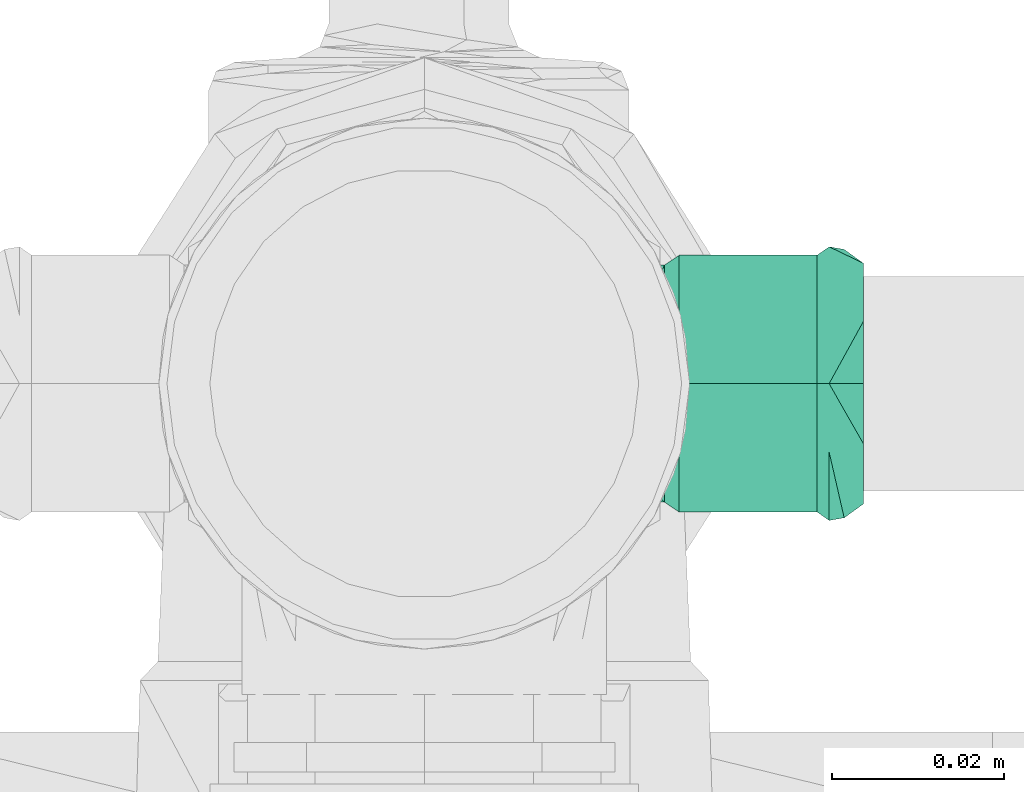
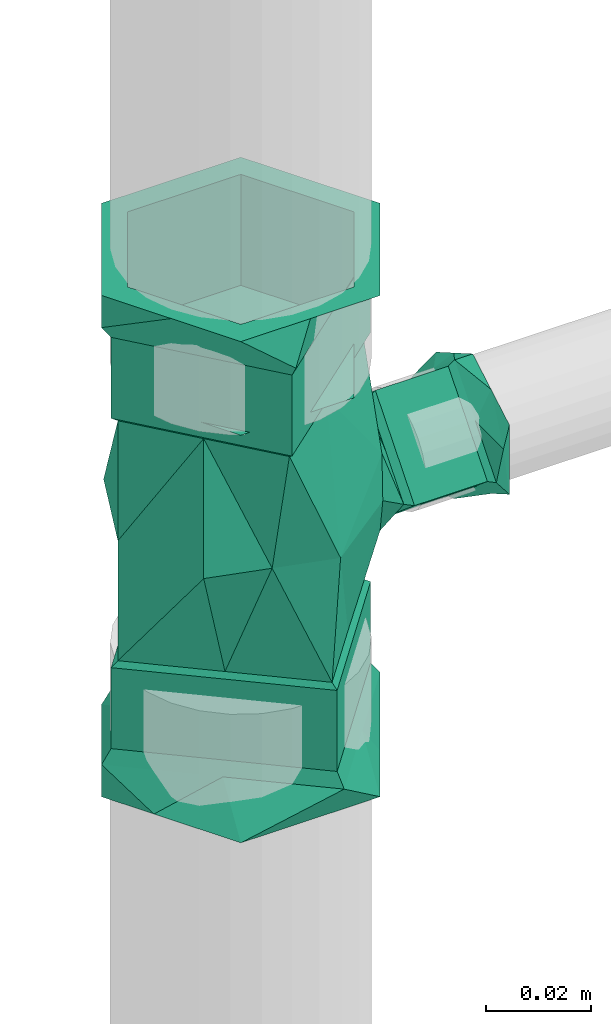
# One storey, part 291 of 589: 1 flow fitting.
"""IFC2X3 building model written with IfcOpenShell, lengths in millimetres."""

from ifc_helpers import new_model, entity, si_unit, converted_unit, derived_unit, direction, frame, origin, place, context, subcontext, project, spatial, faceted_brep, source, transform, mapped, material, type_object, type_shapes, element, save


model = new_model("IFC2X3")

# Units and contexts
model_context = context("Model", 3, precision=0.01, world=origin(), true_north=direction((6.123031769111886e-17, 1.0)))
body_context = subcontext(model_context, "Body", "Model", "MODEL_VIEW")
ifc_project = project(units=[si_unit("LENGTHUNIT", "METRE", prefix="MILLI"), si_unit("AREAUNIT", "SQUARE_METRE"), si_unit("VOLUMEUNIT", "CUBIC_METRE"), converted_unit("PLANEANGLEUNIT", "DEGREE", entity("IfcRatioMeasure", 0.017453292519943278), si_unit("PLANEANGLEUNIT", "RADIAN"), dimensions=[0, 0, 0, 0, 0, 0, 0]), si_unit("MASSUNIT", "GRAM", prefix="KILO"), derived_unit("MASSDENSITYUNIT", [(si_unit("MASSUNIT", "GRAM", prefix="KILO"), 1), (si_unit("LENGTHUNIT", "METRE"), -3)]), derived_unit("IONCONCENTRATIONUNIT", [(si_unit("MASSUNIT", "GRAM", prefix="KILO"), 1), (si_unit("LENGTHUNIT", "METRE"), -3)]), derived_unit("MOMENTOFINERTIAUNIT", [(si_unit("LENGTHUNIT", "METRE"), 4)]), si_unit("TIMEUNIT", "SECOND"), si_unit("FREQUENCYUNIT", "HERTZ"), si_unit("THERMODYNAMICTEMPERATUREUNIT", "DEGREE_CELSIUS"), derived_unit("THERMALTRANSMITTANCEUNIT", [(si_unit("MASSUNIT", "GRAM", prefix="KILO"), 1), (si_unit("THERMODYNAMICTEMPERATUREUNIT", "KELVIN"), -1), (si_unit("TIMEUNIT", "SECOND"), -3)]), derived_unit("THERMALCONDUCTANCEUNIT", [(si_unit("MASSUNIT", "GRAM", prefix="KILO"), 1), (si_unit("THERMODYNAMICTEMPERATUREUNIT", "KELVIN"), -1), (si_unit("TIMEUNIT", "SECOND"), -3), (si_unit("LENGTHUNIT", "METRE"), 1)]), derived_unit("VOLUMETRICFLOWRATEUNIT", [(si_unit("LENGTHUNIT", "METRE"), 3), (si_unit("TIMEUNIT", "SECOND"), -1)]), derived_unit("MASSFLOWRATEUNIT", [(si_unit("MASSUNIT", "GRAM", prefix="KILO"), 1), (si_unit("TIMEUNIT", "SECOND"), -1)]), derived_unit("ROTATIONALFREQUENCYUNIT", [(si_unit("TIMEUNIT", "SECOND"), -1)]), si_unit("ELECTRICCURRENTUNIT", "AMPERE"), si_unit("ELECTRICVOLTAGEUNIT", "VOLT"), si_unit("POWERUNIT", "WATT"), si_unit("FORCEUNIT", "NEWTON", prefix="KILO"), si_unit("ILLUMINANCEUNIT", "LUX"), si_unit("LUMINOUSFLUXUNIT", "LUMEN"), si_unit("LUMINOUSINTENSITYUNIT", "CANDELA"), derived_unit("USERDEFINED", [(si_unit("MASSUNIT", "GRAM", prefix="KILO"), -1), (si_unit("LENGTHUNIT", "METRE"), -2), (si_unit("TIMEUNIT", "SECOND"), 3), (si_unit("LUMINOUSFLUXUNIT", "LUMEN"), 1)]), derived_unit("USERDEFINED", [(si_unit("MASSUNIT", "GRAM", prefix="KILO"), 1), (si_unit("TIMEUNIT", "SECOND"), -3), (si_unit("LENGTHUNIT", "METRE"), 3), (si_unit("ELECTRICCURRENTUNIT", "AMPERE"), -2)]), derived_unit("SOUNDPOWERUNIT", [(si_unit("MASSUNIT", "GRAM", prefix="KILO"), 1), (si_unit("TIMEUNIT", "SECOND"), -3), (si_unit("LENGTHUNIT", "METRE"), 2)]), derived_unit("SOUNDPRESSUREUNIT", [(si_unit("MASSUNIT", "GRAM", prefix="KILO"), 1), (si_unit("LENGTHUNIT", "METRE"), -1), (si_unit("TIMEUNIT", "SECOND"), -2)]), derived_unit("LINEARVELOCITYUNIT", [(si_unit("LENGTHUNIT", "METRE"), 1), (si_unit("TIMEUNIT", "SECOND"), -1)]), si_unit("PRESSUREUNIT", "PASCAL"), derived_unit("USERDEFINED", [(si_unit("MASSUNIT", "GRAM", prefix="KILO"), 1), (si_unit("LENGTHUNIT", "METRE"), -2), (si_unit("TIMEUNIT", "SECOND"), -2)]), derived_unit("LINEARFORCEUNIT", [(si_unit("MASSUNIT", "GRAM", prefix="KILO"), 1), (si_unit("TIMEUNIT", "SECOND"), -2)]), derived_unit("PLANARFORCEUNIT", [(si_unit("MASSUNIT", "GRAM", prefix="KILO"), 1), (si_unit("LENGTHUNIT", "METRE"), -1), (si_unit("TIMEUNIT", "SECOND"), -2)]), derived_unit("SPECIFICHEATCAPACITYUNIT", [(si_unit("THERMODYNAMICTEMPERATUREUNIT", "KELVIN"), -1), (si_unit("LENGTHUNIT", "METRE"), 2), (si_unit("TIMEUNIT", "SECOND"), -2)]), derived_unit("HEATINGVALUEUNIT", [(si_unit("LENGTHUNIT", "METRE"), 2), (si_unit("TIMEUNIT", "SECOND"), -2)]), derived_unit("VAPORPERMEABILITYUNIT", [(si_unit("LENGTHUNIT", "METRE"), -1), (si_unit("TIMEUNIT", "SECOND"), 1)]), derived_unit("DYNAMICVISCOSITYUNIT", [(si_unit("MASSUNIT", "GRAM", prefix="KILO"), 1), (si_unit("TIMEUNIT", "SECOND"), -1), (si_unit("LENGTHUNIT", "METRE"), -1)]), derived_unit("THERMALEXPANSIONCOEFFICIENTUNIT", [(si_unit("THERMODYNAMICTEMPERATUREUNIT", "KELVIN"), -1)]), derived_unit("MODULUSOFELASTICITYUNIT", [(si_unit("MASSUNIT", "GRAM", prefix="KILO"), 1), (si_unit("LENGTHUNIT", "METRE"), -1), (si_unit("TIMEUNIT", "SECOND"), -2)]), derived_unit("ISOTHERMALMOISTURECAPACITYUNIT", [(si_unit("LENGTHUNIT", "METRE"), 3), (si_unit("MASSUNIT", "GRAM", prefix="KILO"), -1)]), derived_unit("MOISTUREDIFFUSIVITYUNIT", [(si_unit("TIMEUNIT", "SECOND"), -1), (si_unit("LENGTHUNIT", "METRE"), 2)])], contexts=[model_context])

# Site, building, storey
site_placement = place(None, origin())
site = spatial("IfcSite", under=ifc_project, at=site_placement, Name="Default", CompositionType="ELEMENT")
building_placement = place(site_placement, origin())
building = spatial("IfcBuilding", under=site, at=building_placement, CompositionType="ELEMENT")
storey_placement = place(building_placement, frame((0.0, 0.0, 100.0)))
storey = spatial("IfcBuildingStorey", under=building, at=storey_placement, Name="TÉRREO", CompositionType="ELEMENT", Elevation=100.0)

# Flow fitting
ifc_material = material(Name="PVC Marrom")
pipe_fitting_type = type_object("IfcPipeFittingType", Name="PVC Marrom Soldável_Tê e Tê de Reducão_Rodrigo MEP:Tê", PredefinedType="NOTDEFINED", material=ifc_material)
shared_shape = source(origin(), body_context, "Body", "Brep", [
    faceted_brep([(8.099999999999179, -51.19999999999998, -14.029611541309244), (12.500000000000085, -51.19999999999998, 0.0), (6.249999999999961, -51.199999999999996, -10.82531754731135), (12.006116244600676, -51.19999999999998, -7.26401974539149), (-6.250000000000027, -51.20000000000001, -10.825317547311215), (0.0, -51.2, -14.02961154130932), (16.20000000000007, -51.199999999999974, 0.0), (6.250000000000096, -51.199999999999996, 10.825317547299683), (12.15000000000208, -51.19999999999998, 7.014805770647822), (8.10000000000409, -51.19999999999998, 14.029611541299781), (-6.249999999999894, -51.20000000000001, 10.825317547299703), (0.0, -51.2, 14.02961154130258), (-8.09999999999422, -51.20000000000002, 14.029611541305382), (-12.00611625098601, -51.20000000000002, 7.2640197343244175), (-16.199999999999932, -51.200000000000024, 0.0), (-12.499999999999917, -51.20000000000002, 0.0), (-12.149999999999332, -51.20000000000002, -7.014805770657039), (-8.099999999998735, -51.20000000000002, -14.0296115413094), (-9.505660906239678, -47.19999999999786, 7.977099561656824), (-2.81132181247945, -47.19999999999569, 15.95419912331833), (4.194176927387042, -48.95626714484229, 15.647647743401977), (-16.199999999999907, -47.200000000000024, 0.0), (16.200000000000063, -47.199999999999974, 0.0), (6.694339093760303, -47.19999999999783, 7.977099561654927), (10.200288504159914, -47.19999999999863, 5.034925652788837), (1.941508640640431, -47.1999999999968, 11.965649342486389), (9.50766188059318, -47.19999999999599, -7.976746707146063), (2.8153237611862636, -47.19999999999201, -15.953493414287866), (-4.191233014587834, -48.95635467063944, -15.648436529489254), (-6.692338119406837, -47.199999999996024, -7.97674670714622), (-10.19988795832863, -47.199999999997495, -5.033979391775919), (-1.938507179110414, -47.199999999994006, -11.965120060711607), (-6.250000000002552, -47.2, -10.825317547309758), (-9.37499999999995, -47.20000000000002, -5.412658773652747), (-12.499999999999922, -47.20000000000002, 0.0), (-8.816048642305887, -45.80000000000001, -6.380790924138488), (-6.249999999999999, -45.80000000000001, -10.82531754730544), (-6.249999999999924, -33.7, -10.825317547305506), (-12.499999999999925, -45.80000000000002, 0.0), (-12.499999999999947, -33.70000000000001, 0.0), (0.0, -47.199999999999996, -10.82531754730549), (6.250000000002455, -47.19999999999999, -10.825317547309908), (6.249999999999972, -45.8, -10.825317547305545), (0.0, -45.800000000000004, -10.825317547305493), (6.250000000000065, -33.699999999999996, -10.825317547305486), (12.50000000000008, -47.19999999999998, 0.0), (8.816048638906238, -47.19999999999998, -6.380790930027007), (9.375000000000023, -45.8, -5.4126587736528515), (12.500000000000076, -45.799999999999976, 0.0), (12.500000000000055, -33.69999999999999, 0.0), (6.249999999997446, -47.19999999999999, 10.825317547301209), (9.37500000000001, -47.19999999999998, 5.4126587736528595), (8.81604864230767, -45.8, 6.380790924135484), (6.249999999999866, -45.8, 10.825317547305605), (6.2499999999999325, -33.699999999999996, 10.825317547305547), (0.0, -47.199999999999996, 10.82531754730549), (-6.2499999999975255, -47.2, 10.82531754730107), (-6.250000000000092, -45.80000000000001, 10.825317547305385), (0.0, -45.800000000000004, 10.825317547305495), (-6.250000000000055, -33.7, 10.825317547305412), (-8.816048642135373, -47.20000000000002, 6.380790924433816), (-9.375000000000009, -45.80000000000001, 5.412658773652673), (-9.570641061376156, -45.79999999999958, -4.724127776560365), (2.6377834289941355, -45.799999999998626, -14.96937201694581), (15.200000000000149, -45.799999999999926, 0.0), (-15.199999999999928, -45.800000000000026, 0.0), (-9.79862070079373, -45.79999999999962, -4.5328084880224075), (8.918891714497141, -45.79999999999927, -7.484686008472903), (-3.941282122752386, -45.799999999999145, -9.44825555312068), (-4.397241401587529, -45.79999999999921, -9.065616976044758), (10.739615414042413, -45.80000000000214, 3.7421774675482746), (6.279230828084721, -45.80000000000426, 7.484354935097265), (1.8188462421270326, -45.80000000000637, 11.226532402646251), (-2.641538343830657, -45.80000000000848, 14.96870987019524), (-6.443631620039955, -45.80000000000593, 10.436910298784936), (-8.920769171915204, -45.800000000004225, 7.484354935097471), (-10.245724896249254, -45.80000000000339, 5.9051107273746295), (-8.918891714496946, -29.700000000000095, 7.4846860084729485), (9.798620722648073, -29.70000000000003, 4.532808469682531), (6.281108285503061, -29.700000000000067, 7.484686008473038), (4.3972414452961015, -29.70000000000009, 9.065616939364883), (-15.199999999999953, -29.700000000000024, 0.0), (-2.637783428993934, -29.70000000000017, 14.96937201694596), (15.200000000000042, -29.699999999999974, 0.0), (8.920769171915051, -29.699999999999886, -7.484354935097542), (2.6415383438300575, -29.699999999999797, -14.968709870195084), (-6.279230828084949, -29.699999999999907, -7.484354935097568), (-8.651615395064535, -28.0, -4.521903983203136), (-5.801761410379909, -28.0, -6.91348643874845), (-3.263230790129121, -28.0, -9.043807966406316), (-14.039999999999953, -28.0, 0.0), (2.436477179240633, -28.0, -13.826972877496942), (8.238238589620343, -28.0, -6.913486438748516), (14.040000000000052, -28.0, 0.0), (5.800025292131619, -28.0, 6.913180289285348), (-2.439949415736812, -28.0, 13.826360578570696), (-9.297801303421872, -28.0, 5.652333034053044), (-8.239974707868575, -28.0, 6.913180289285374), (-13.993250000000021, -27.149999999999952, 0.0), (-8.698026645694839, -24.90789224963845, -10.803675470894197), (0.0, -23.389258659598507, -13.786409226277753), (13.993249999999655, -27.149999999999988, 0.0), (10.886120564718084, -25.729354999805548, -8.667340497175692), (8.698026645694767, -24.907892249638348, 10.803675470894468), (0.0, -23.389258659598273, 13.786409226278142), (-10.886120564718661, -25.729354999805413, 8.667340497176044), (-32.59999999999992, -25.0, 0.0), (-32.59999999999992, -19.790106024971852, 9.023801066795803), (-32.59999999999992, -12.500000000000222, 21.650635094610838), (-32.59999999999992, 0.0, 21.65063509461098), (-32.59999999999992, 12.499999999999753, 21.65063509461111), (-32.59999999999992, 18.749999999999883, 10.825317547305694), (-32.59999999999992, 25.0, 0.0), (-32.59999999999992, 19.790105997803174, -9.023801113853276), (-32.59999999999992, 12.500000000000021, -21.65063509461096), (-32.59999999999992, 0.0, -21.65063509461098), (-32.59999999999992, -12.49999999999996, -21.650635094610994), (-32.59999999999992, -18.749999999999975, -10.825317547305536), (-48.0, -12.500000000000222, 21.650635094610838), (-48.0, -18.750000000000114, 10.825317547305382), (-58.50000000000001, -18.75000000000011, 10.82531754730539), (-58.50000000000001, -12.500000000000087, 21.650635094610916), (-48.0, -19.790106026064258, 9.02380106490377), (-48.0, -25.0, 0.0), (-58.50000000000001, -25.0, 0.0), (32.60000000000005, -25.0, 0.0), (32.60000000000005, -18.74999999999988, 10.825317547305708), (32.60000000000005, -12.499999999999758, 21.65063509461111), (58.5, -12.499999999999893, 21.650635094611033), (58.500000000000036, -19.97114481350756, 8.71023268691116), (58.5, -25.0, 0.0), (-48.0, 0.0, 21.650635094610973), (-48.0, 12.499999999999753, 21.65063509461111), (-58.50000000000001, 0.0, 21.650635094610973), (-58.50000000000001, 12.499999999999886, 21.650635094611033), (32.60000000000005, 0.0, 21.650635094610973), (32.60000000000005, 12.500000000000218, 21.650635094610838), (58.5, 12.500000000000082, 21.650635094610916), (58.5, 0.0, 21.650635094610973), (-48.0, 19.790106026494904, 9.023801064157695), (-48.0, 25.0, 0.0), (-48.0, 18.749999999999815, 10.825317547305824), (-58.49999999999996, 19.79010602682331, 9.023801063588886), (-58.50000000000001, 25.0, 0.0), (32.60000000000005, 19.97114481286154, 8.71023268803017), (32.60000000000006, 25.0, 0.0), (58.5, 25.0, 0.0), (58.5, 18.75000000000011, 10.825317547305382), (-48.0, 12.49999999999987, -21.650635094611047), (-48.0, 18.749999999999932, -10.825317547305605), (-58.50000000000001, 18.749999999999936, -10.825317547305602), (-58.50000000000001, 12.499999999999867, -21.650635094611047), (-48.0, 19.790106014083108, -9.023801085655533), (32.60000000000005, 18.749999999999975, -10.82531754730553), (32.60000000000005, 12.499999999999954, -21.650635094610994), (58.5, 12.5000000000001, -21.650635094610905), (58.500000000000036, 19.97114481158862, -8.710232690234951), (-48.0, 0.0, -21.65063509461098), (-48.0, -12.50000000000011, -21.650635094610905), (-58.50000000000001, 0.0, -21.65063509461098), (-58.50000000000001, -12.500000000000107, -21.650635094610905), (32.60000000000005, 0.0, -21.65063509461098), (32.60000000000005, -12.500000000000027, -21.65063509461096), (58.5, -12.499999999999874, -21.650635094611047), (58.5, 0.0, -21.65063509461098), (-48.0, -19.790106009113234, -9.02380109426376), (-48.0, -18.75000000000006, -10.825317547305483), (-58.49999999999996, -19.79010602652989, -9.023801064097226), (32.60000000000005, -19.971144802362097, -8.710232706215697), (58.5, -18.749999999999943, -10.825317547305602), (-28.0, 15.934137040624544, -13.368436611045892), (0.0, 27.15, 0.0), (0.0, 19.249777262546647, -19.145980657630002), (0.0, 6.194218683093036, -22.707339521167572), (-28.0, 20.511742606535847, -7.912286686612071), (-28.0, 27.15, 0.0), (0.0, -6.861339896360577, -26.268698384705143), (-28.0, 4.718274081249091, -26.73687322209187), (-28.0, -27.15, 0.0), (-28.0, -19.18293147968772, -6.684218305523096), (-28.0, -11.215862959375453, -13.368436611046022), (-28.0, -3.2487944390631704, -20.052654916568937), (-28.0, 10.326205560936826, -20.052654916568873), (-28.0, -15.930783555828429, 13.369027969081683), (0.0, -6.86133989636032, 26.268698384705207), (-28.0, -4.711567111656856, 26.738055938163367), (-28.0, -10.32117533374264, 20.053541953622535), (0.0, 19.24977726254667, 19.145980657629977), (-28.0, 19.60719441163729, 6.329881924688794), (-28.0, 11.219216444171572, 13.369027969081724), (0.0, 6.194218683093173, 22.707339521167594), (-28.0, 3.2538246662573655, 20.05354195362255), (-28.0, -20.510950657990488, 7.911215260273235), (-29.099999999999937, 16.81093734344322, -14.107648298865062), (-29.099999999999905, 10.891406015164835, -21.16147244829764), (-29.099999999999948, -12.730929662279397, -13.359198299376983), (-29.099999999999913, -3.8795274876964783, -20.787247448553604), (-29.099999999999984, -20.690464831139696, -6.679599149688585), (-29.099999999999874, 4.97187468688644, -28.215296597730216), (-29.1, 28.650000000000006, 0.0), (-29.099999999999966, 22.730468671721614, -7.053824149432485), (-29.09999999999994, -11.83906265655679, -14.107648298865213), (-29.100000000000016, -28.649999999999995, 0.0), (-29.100000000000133, -9.809464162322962, 22.456453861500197), (-29.100000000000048, -21.64498805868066, 8.349429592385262), (-29.10000000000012, 3.4282858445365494, 21.160536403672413), (-29.10000000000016, -4.978952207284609, 28.21404853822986), (-29.100000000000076, 11.835523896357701, 14.107024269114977), (-29.10000000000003, 20.242761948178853, 7.053512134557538), (-29.100000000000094, -14.639976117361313, 16.698859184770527), (-29.10000000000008, -16.814476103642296, 14.107024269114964), (-48.0, -4.978952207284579, 28.214048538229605), (-48.0, 28.650000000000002, 0.0), (-48.0, 12.939627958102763, 13.18070205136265), (-48.0, 11.835523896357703, 14.107024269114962), (-48.0, -16.81447610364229, 14.107024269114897), (-48.0, -28.650000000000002, 0.0), (-48.0, 4.971874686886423, -28.215296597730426), (-48.0, -12.94067667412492, -13.183179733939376), (-48.0, -11.839062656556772, -14.107648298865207), (-48.0, 16.81093734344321, -14.107648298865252), (-51.0, 16.175349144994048, -17.370576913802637), (-51.0, 18.04585747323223, -15.141239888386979), (-51.0, 30.75, 0.0), (-51.0, -12.704142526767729, -15.141239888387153), (-51.0, 5.341714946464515, -30.282479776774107), (-51.0, -30.74999999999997, 0.0), (-51.0, -5.3380546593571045, 30.283125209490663), (-51.0, -18.044027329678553, 15.141562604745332), (-51.0, 4.425812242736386, 22.08982117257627), (-51.0, 14.189679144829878, 13.896517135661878), (-51.0, 12.705972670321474, 15.141562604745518), (-58.50000000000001, -15.375000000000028, -26.63028116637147), (-58.500000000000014, -24.971948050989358, -10.007879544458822), (-58.50000000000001, 0.0, -26.6302811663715), (-58.50000000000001, -30.75, 0.0), (-58.50000000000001, -23.06249999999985, 13.315140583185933), (-58.50000000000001, -15.374999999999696, 26.630281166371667), (-58.50000000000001, 0.0, 26.6302811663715), (-58.50000000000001, 15.375000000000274, 26.63028116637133), (-58.500000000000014, 24.97194806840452, 10.007879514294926), (-58.50000000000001, 30.75, 0.0), (-58.50000000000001, 23.062499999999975, -13.315140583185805), (-58.50000000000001, 15.374999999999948, -26.630281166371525), (51.0, 30.749999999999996, 0.0), (58.5, 23.06249999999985, 13.315140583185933), (58.5, 30.75, 0.0), (51.0, -30.749999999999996, 0.0), (58.5, -30.75, 0.0), (58.5, -24.97194806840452, 10.007879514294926), (58.5, -23.062499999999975, -13.315140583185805), (58.5, 24.971948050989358, -10.007879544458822), (28.0, -15.934137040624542, -13.36843661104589), (28.0, -27.15, 0.0), (28.0, -4.718274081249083, -26.736873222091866), (28.0, -10.326205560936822, -20.05265491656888), (28.0, 27.15, 0.0), (28.0, 19.182931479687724, -6.6842183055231), (28.0, 11.215862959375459, -13.368436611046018), (28.0, 3.248794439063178, -20.052654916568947), (28.0, -20.511742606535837, -7.912286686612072), (28.0, 15.930783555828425, 13.369027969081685), (28.0, 20.51095065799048, 7.9112152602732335), (28.0, 4.711567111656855, 26.73805593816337), (28.0, -19.607194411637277, 6.329881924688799), (28.0, -11.21921644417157, 13.36902796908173), (28.0, -3.2538246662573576, 20.05354195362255), (28.0, 10.321175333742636, 20.053541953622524), (29.099999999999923, -16.81093734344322, -14.107648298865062), (29.09999999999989, -10.891406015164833, -21.16147244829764), (29.099999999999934, 12.730929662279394, -13.359198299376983), (29.09999999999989, 3.879527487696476, -20.787247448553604), (29.099999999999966, 20.690464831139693, -6.679599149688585), (29.099999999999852, -4.971874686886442, -28.215296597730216), (29.1, -28.650000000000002, 0.0), (29.099999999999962, -22.73046867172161, -7.053824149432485), (29.099999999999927, 11.83906265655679, -14.107648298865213), (29.1, 28.64999999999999, 0.0), (29.10000000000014, 9.809464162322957, 22.45645386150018), (29.10000000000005, 21.644988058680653, 8.349429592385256), (29.100000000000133, -3.4282858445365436, 21.160536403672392), (29.100000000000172, 4.978952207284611, 28.214048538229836), (29.100000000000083, -11.83552389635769, 14.107024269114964), (29.100000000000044, -20.242761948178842, 7.053512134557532), (29.1000000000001, 14.639976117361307, 16.69885918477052), (29.10000000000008, 16.814476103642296, 14.107024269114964), (48.0, 4.978952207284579, 28.214048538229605), (48.0, -28.650000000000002, 0.0), (48.0, -12.939627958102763, 13.18070205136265), (48.0, -11.835523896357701, 14.107024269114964), (48.0, 16.81447610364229, 14.107024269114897), (48.0, 28.650000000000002, 0.0), (48.0, -4.971874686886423, -28.215296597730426), (48.0, 12.94067667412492, -13.183179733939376), (48.0, 11.83906265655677, -14.107648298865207), (48.0, -16.81093734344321, -14.107648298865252), (51.0, -16.174511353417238, -17.369443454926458), (51.0, -18.044027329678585, -15.141562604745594), (51.0, 12.70597267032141, -15.141562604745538), (51.0, -5.33805465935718, -30.283125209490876), (51.0, 5.341714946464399, 30.28247977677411), (51.0, 18.045857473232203, 15.141239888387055), (51.0, -4.423715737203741, 22.088869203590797), (51.0, -14.189146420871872, 13.895258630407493), (51.0, -12.70414252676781, 15.141239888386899), (58.5, 15.375000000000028, -26.63028116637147), (58.5, 0.0, -26.6302811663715), (58.5, 15.374999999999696, 26.630281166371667), (58.5, 0.0, 26.6302811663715), (58.5, -15.375000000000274, 26.63028116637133), (58.5, -15.374999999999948, -26.630281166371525)], [[[0, 1, 2]], [[1, 0, 3]], [[0, 2, 4]], [[4, 5, 0]], [[1, 3, 6]], [[7, 1, 6]], [[7, 6, 8]], [[7, 8, 9]], [[7, 9, 10]], [[10, 9, 11]], [[10, 11, 12]], [[10, 12, 13]], [[10, 13, 14]], [[14, 15, 10]], [[15, 14, 16]], [[15, 16, 17]], [[17, 4, 15]], [[4, 17, 5]], [[18, 12, 19]], [[12, 20, 19]], [[18, 21, 13]], [[21, 14, 13]], [[22, 8, 6]], [[20, 8, 23]], [[8, 22, 24, 23]], [[20, 23, 25, 19]], [[20, 12, 11, 9]], [[8, 20, 9]], [[12, 18, 13]], [[26, 0, 27]], [[0, 28, 27]], [[26, 22, 3]], [[22, 6, 3]], [[21, 16, 14]], [[28, 16, 29]], [[16, 21, 30, 29]], [[28, 29, 31, 27]], [[28, 0, 5, 17]], [[16, 28, 17]], [[0, 26, 3]], [[4, 32, 33]], [[4, 33, 34]], [[34, 15, 4]], [[33, 32, 35]], [[36, 35, 32]], [[37, 35, 36]], [[37, 38, 35]], [[38, 37, 39]], [[38, 34, 33]], [[33, 35, 38]], [[4, 2, 32]], [[2, 40, 32]], [[2, 41, 40]], [[42, 40, 41]], [[43, 40, 42]], [[44, 43, 42]], [[44, 36, 43]], [[44, 37, 36]], [[43, 36, 32]], [[32, 40, 43]], [[1, 45, 46]], [[1, 46, 41]], [[41, 2, 1]], [[47, 46, 45]], [[45, 48, 47]], [[49, 47, 48]], [[49, 42, 47]], [[42, 49, 44]], [[41, 46, 42]], [[47, 42, 46]], [[7, 50, 51]], [[7, 51, 45]], [[45, 1, 7]], [[51, 50, 52]], [[53, 52, 50]], [[54, 52, 53]], [[54, 48, 52]], [[48, 54, 49]], [[48, 45, 51]], [[51, 52, 48]], [[7, 10, 50]], [[10, 55, 50]], [[10, 56, 55]], [[57, 55, 56]], [[58, 55, 57]], [[59, 58, 57]], [[59, 53, 58]], [[59, 54, 53]], [[58, 53, 50]], [[50, 55, 58]], [[15, 34, 60]], [[15, 60, 56]], [[56, 10, 15]], [[61, 60, 34]], [[34, 38, 61]], [[39, 61, 38]], [[39, 57, 61]], [[57, 39, 59]], [[56, 60, 57]], [[61, 57, 60]], [[30, 62, 29]], [[31, 63, 27]], [[22, 26, 64]], [[30, 65, 66, 62]], [[27, 63, 67]], [[67, 26, 27]], [[21, 65, 30]], [[63, 31, 68]], [[64, 26, 67]], [[29, 62, 69, 68]], [[31, 29, 68]], [[22, 64, 70]], [[25, 71, 72]], [[72, 19, 25]], [[71, 25, 23, 24]], [[19, 73, 74]], [[18, 74, 75, 76]], [[24, 70, 71]], [[76, 21, 18]], [[76, 65, 21]], [[22, 70, 24]], [[72, 73, 19]], [[19, 74, 18]], [[77, 75, 74, 73]], [[71, 78, 79, 80]], [[81, 65, 76, 75]], [[78, 71, 70, 64]], [[80, 82, 73]], [[81, 75, 77]], [[73, 82, 77]], [[78, 64, 83]], [[80, 73, 72, 71]], [[64, 84, 83]], [[84, 64, 67]], [[85, 63, 68, 69]], [[66, 65, 81]], [[85, 69, 86]], [[86, 69, 62, 66]], [[63, 85, 67]], [[81, 86, 66]], [[67, 85, 84]], [[81, 87, 86]], [[86, 87, 88, 89]], [[87, 81, 90]], [[85, 89, 91]], [[85, 91, 92]], [[92, 84, 85]], [[93, 84, 92]], [[89, 85, 86]], [[83, 84, 93]], [[93, 79, 78, 83]], [[94, 82, 80, 79]], [[82, 94, 95]], [[95, 77, 82]], [[96, 90, 81]], [[77, 95, 97, 96]], [[96, 81, 77]], [[93, 94, 79]], [[98, 88, 87, 90]], [[98, 99, 88]], [[99, 100, 91]], [[101, 93, 92]], [[99, 91, 89, 88]], [[101, 92, 102]], [[92, 91, 102]], [[102, 91, 100]], [[101, 94, 93]], [[101, 103, 94]], [[103, 104, 95]], [[98, 90, 96, 97]], [[103, 95, 94]], [[98, 97, 105]], [[97, 95, 105]], [[105, 95, 104]], [[39, 37, 44, 49, 54, 59]], [[106, 107, 108, 109, 110, 111, 112, 113, 114, 115, 116, 117]], [[118, 108, 119]], [[120, 118, 119]], [[121, 118, 120]], [[107, 119, 108]], [[107, 122, 119]], [[107, 123, 122]], [[107, 106, 123]], [[122, 123, 124]], [[124, 120, 122]], [[120, 119, 122]], [[125, 126, 127, 128, 129, 130]], [[110, 109, 131]], [[131, 132, 110]], [[131, 109, 118]], [[118, 109, 108]], [[121, 131, 118]], [[133, 131, 121]], [[132, 131, 133]], [[133, 134, 132]], [[127, 135, 136, 137, 138, 128]], [[112, 111, 139]], [[139, 140, 112]], [[111, 141, 139]], [[111, 132, 141]], [[110, 132, 111]], [[132, 134, 141]], [[142, 141, 134]], [[142, 140, 139]], [[142, 143, 140]], [[142, 139, 141]], [[137, 136, 144, 145, 146, 147]], [[148, 114, 149]], [[150, 148, 149]], [[151, 148, 150]], [[113, 149, 114]], [[113, 152, 149]], [[113, 140, 152]], [[113, 112, 140]], [[152, 140, 143]], [[143, 150, 152]], [[150, 149, 152]], [[145, 153, 154, 155, 156, 146]], [[116, 115, 157]], [[157, 158, 116]], [[157, 115, 148]], [[148, 115, 114]], [[151, 157, 148]], [[159, 157, 151]], [[158, 157, 159]], [[159, 160, 158]], [[154, 161, 162, 163, 164, 155]], [[106, 117, 165]], [[165, 123, 106]], [[117, 166, 165]], [[117, 158, 166]], [[116, 158, 117]], [[158, 160, 166]], [[167, 166, 160]], [[167, 123, 165]], [[167, 124, 123]], [[167, 165, 166]], [[163, 162, 168, 125, 130, 169]], [[170, 171, 172]], [[170, 172, 173]], [[171, 170, 174, 175]], [[176, 177, 173]], [[176, 100, 99]], [[99, 178, 179, 180]], [[99, 98, 178]], [[176, 180, 181, 177]], [[173, 177, 182, 170]], [[180, 176, 99]], [[183, 105, 104]], [[178, 98, 105]], [[184, 185, 186, 183]], [[187, 171, 175]], [[187, 175, 188, 189]], [[190, 187, 189]], [[190, 189, 191, 185]], [[105, 183, 192, 178]], [[185, 184, 190]], [[104, 184, 183]], [[170, 182, 193, 174]], [[177, 194, 182]], [[180, 179, 195]], [[181, 180, 196]], [[178, 197, 179]], [[198, 177, 181]], [[199, 175, 200]], [[194, 177, 198]], [[180, 195, 201, 196]], [[198, 181, 196]], [[175, 174, 200]], [[174, 193, 200]], [[197, 178, 202]], [[197, 195, 179]], [[194, 193, 182]], [[185, 203, 186]], [[202, 178, 204]], [[185, 205, 206]], [[207, 189, 208]], [[209, 183, 186]], [[175, 199, 188]], [[191, 207, 205]], [[183, 209, 210, 204]], [[188, 208, 189]], [[207, 191, 189]], [[185, 191, 205]], [[178, 192, 183, 204]], [[188, 199, 208]], [[203, 185, 206]], [[203, 209, 186]], [[211, 206, 205, 207, 208, 199, 212, 213, 214]], [[215, 216, 202, 204, 210, 209, 203, 206, 211]], [[217, 198, 196, 201, 195, 197, 202, 216, 218, 219]], [[220, 212, 199, 200, 193, 194, 198, 217]], [[217, 221, 220]], [[220, 221, 222, 223]], [[217, 224, 225]], [[226, 219, 218, 216]], [[223, 212, 220]], [[221, 217, 225]], [[224, 217, 219]], [[226, 224, 219]], [[211, 227, 228]], [[229, 227, 211]], [[229, 211, 214]], [[228, 215, 211]], [[212, 223, 230]], [[226, 215, 228]], [[214, 230, 231, 229]], [[216, 215, 226]], [[230, 214, 213, 212]], [[232, 124, 167]], [[124, 232, 233]], [[232, 167, 160]], [[232, 160, 159]], [[232, 159, 151]], [[151, 234, 232]], [[124, 233, 235]], [[235, 120, 124]], [[235, 121, 120]], [[121, 235, 236]], [[121, 236, 237]], [[237, 133, 121]], [[237, 134, 133]], [[134, 237, 238]], [[134, 238, 239]], [[134, 239, 240]], [[134, 240, 241]], [[241, 142, 134]], [[241, 143, 142]], [[143, 241, 242]], [[143, 242, 243]], [[243, 151, 150]], [[151, 243, 234]], [[243, 150, 143]], [[231, 240, 239]], [[240, 231, 230, 223]], [[223, 241, 240]], [[244, 245, 246]], [[226, 236, 235]], [[247, 248, 249]], [[227, 237, 228]], [[228, 237, 236]], [[226, 228, 236]], [[227, 239, 238, 237]], [[239, 227, 229, 231]], [[224, 233, 232]], [[224, 226, 233]], [[226, 235, 233]], [[247, 250, 248]], [[223, 242, 241]], [[244, 246, 251]], [[243, 222, 221, 225]], [[222, 243, 242]], [[223, 222, 242]], [[224, 234, 225]], [[225, 234, 243]], [[224, 232, 234]], [[252, 102, 100]], [[253, 101, 102]], [[176, 254, 255, 252]], [[172, 171, 256]], [[172, 256, 257, 258]], [[173, 172, 258]], [[173, 258, 259, 254]], [[102, 252, 260, 253]], [[254, 176, 173]], [[100, 176, 252]], [[261, 171, 187]], [[261, 187, 190]], [[171, 261, 262, 256]], [[184, 263, 190]], [[184, 104, 103]], [[103, 253, 264, 265]], [[103, 101, 253]], [[184, 265, 266, 263]], [[190, 263, 267, 261]], [[265, 184, 103]], [[252, 255, 268, 260]], [[254, 269, 255]], [[258, 257, 270]], [[259, 258, 271]], [[256, 272, 257]], [[273, 254, 259]], [[274, 253, 275]], [[269, 254, 273]], [[258, 270, 276, 271]], [[273, 259, 271]], [[253, 260, 275]], [[260, 268, 275]], [[272, 256, 277]], [[272, 270, 257]], [[269, 268, 255]], [[263, 278, 267]], [[277, 256, 279]], [[263, 280, 281]], [[282, 265, 283]], [[284, 261, 267]], [[253, 274, 264]], [[266, 282, 280]], [[261, 284, 285, 279]], [[264, 283, 265]], [[282, 266, 265]], [[263, 266, 280]], [[256, 262, 261, 279]], [[264, 274, 283]], [[278, 263, 281]], [[278, 284, 267]], [[286, 281, 280, 282, 283, 274, 287, 288, 289]], [[290, 291, 277, 279, 285, 284, 278, 281, 286]], [[292, 273, 271, 276, 270, 272, 277, 291, 293, 294]], [[295, 287, 274, 275, 268, 269, 273, 292]], [[292, 296, 295]], [[295, 296, 297, 247]], [[292, 298, 299]], [[244, 294, 293, 291]], [[247, 287, 295]], [[296, 292, 299]], [[298, 292, 294]], [[244, 298, 294]], [[286, 300, 301]], [[302, 300, 286]], [[302, 286, 289]], [[301, 290, 286]], [[287, 247, 303]], [[244, 290, 301]], [[289, 303, 304, 302]], [[291, 290, 244]], [[303, 289, 288, 287]], [[305, 146, 156]], [[146, 305, 251]], [[305, 156, 155]], [[305, 155, 164]], [[305, 164, 163]], [[163, 306, 305]], [[146, 251, 246]], [[246, 147, 146]], [[246, 137, 147]], [[137, 246, 245]], [[137, 245, 307]], [[307, 138, 137]], [[307, 128, 138]], [[128, 307, 308]], [[128, 308, 309]], [[128, 309, 249]], [[128, 249, 248]], [[248, 129, 128]], [[248, 130, 129]], [[130, 248, 250]], [[130, 250, 310]], [[310, 163, 169]], [[163, 310, 306]], [[310, 169, 130]], [[304, 249, 309]], [[249, 304, 303, 247]], [[300, 307, 301]], [[301, 307, 245]], [[244, 301, 245]], [[308, 300, 302, 304]], [[300, 308, 307]], [[304, 309, 308]], [[298, 251, 305]], [[298, 244, 251]], [[310, 297, 296, 299]], [[297, 310, 250]], [[247, 297, 250]], [[299, 305, 306, 310]], [[299, 298, 305]], [[145, 144, 136, 135, 127, 126, 125, 168, 162, 161, 154, 153]]]),
])
type_shapes(pipe_fitting_type, [shared_shape])
flow_fitting_placement = place(storey_placement, frame((6054.818506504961, 7535.924752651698, 1700.0), z_axis=(0.0, -1.0, 0.0), x_axis=(0.0, 0.0, 1.0)))
element("IfcFlowFitting", 1, at=flow_fitting_placement, inside=storey, type_object=pipe_fitting_type, material=ifc_material, Name="PVC Marrom Soldável_Tê e Tê de Reducão_Rodrigo MEP:Tê", ObjectType="PVC Marrom Soldável_Tê e Tê de Reducão_Rodrigo MEP:Tê", context=body_context, shape_type="MappedRepresentation", body=[
    mapped(shared_shape, transform((0.0, 0.0, 0.0), scale=1.0)),
])

save(model, "model.ifc")
